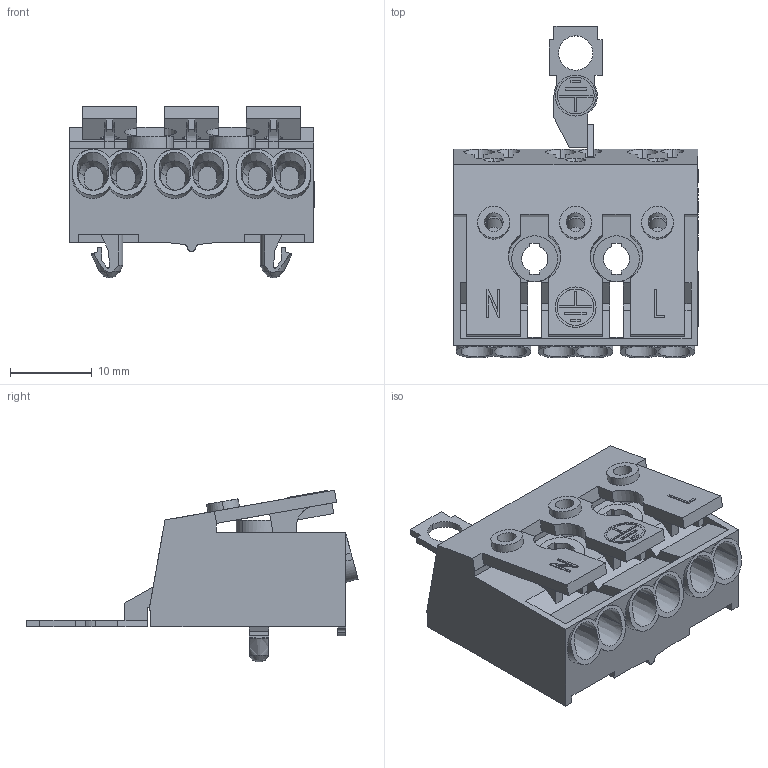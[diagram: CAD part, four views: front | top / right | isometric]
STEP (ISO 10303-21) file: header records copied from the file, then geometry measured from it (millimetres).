
FILE_DESCRIPTION((' '),'1');
FILE_NAME('002YR0HY04.stp','2014-04-09 T10:54:17',(''),(''),'STEP Interface 2013.192 by CT CoreTechnologie','3D_Evolution2013.192 by CT CoreTechnologie','');
FILE_SCHEMA(('AP203_CONFIGURATION_CONTROLLED_3D_DESIGN_OF_MECHANICAL_PARTS_AND_ASSEMBLIES_MIM_LF'));
Length unit declared in the file: millimetre
Products named in the file (3): 002YR0HY04; 002YR0HY04-1; 002YR0HY04-2
Assembly tree (2 placements, depth 2):
  002YR0HY04
    002YR0HY04-1
    002YR0HY04-2
Bounding box: 29.9 x 40.55 x 20.98 mm (x, y, z)
Volume: 6985.2 mm3; surface area: 5966.1 mm2
Topology: 2 solids, 2 shells, 562 faces, 1534 edges, 1011 vertices
Faces by surface type: plane 377, cylinder 147, bspline 38
Entity records: 24844 total; most frequent: CARTESIAN_POINT 6100, ORIENTED_EDGE 3032, DIRECTION 2798, EDGE_CURVE 1516, VECTOR 1106, LINE 1106, VERTEX_POINT 1004, AXIS2_PLACEMENT_3D 846
